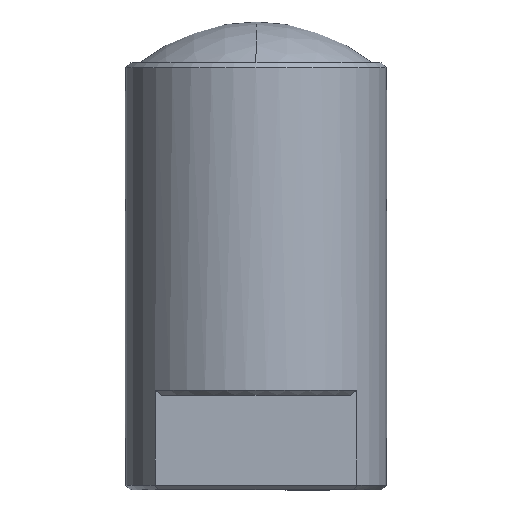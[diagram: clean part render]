
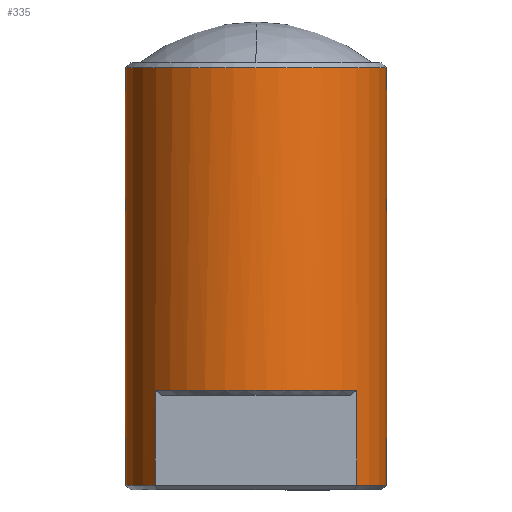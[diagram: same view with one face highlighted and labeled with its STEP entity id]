
A CAD part, front view. The second image highlights one B-rep face of the part: STEP entity #335.
In plain terms, the highlighted cylindrical face has radius 5.5 mm (diameter 11 mm), a partial arc.
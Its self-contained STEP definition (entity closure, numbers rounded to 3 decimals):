
#8 = CARTESIAN_POINT ( 'NONE',  ( 5.5, -0.069, 12.25 ) ) ;
#17 = ORIENTED_EDGE ( 'NONE', *, *, #1051, .T. ) ;
#34 = CARTESIAN_POINT ( 'NONE',  ( 5.5, 0., 11.75 ) ) ;
#38 = DIRECTION ( 'NONE',  ( 0., 0., 1. ) ) ;
#63 = VERTEX_POINT ( 'NONE', #1207 ) ;
#72 = ORIENTED_EDGE ( 'NONE', *, *, #1146, .T. ) ;
#102 = VERTEX_POINT ( 'NONE', #919 ) ;
#107 = CARTESIAN_POINT ( 'NONE',  ( -5.5, 0., 18. ) ) ;
#145 = CARTESIAN_POINT ( 'NONE',  ( 5.494, -0.25, 11.931 ) ) ;
#147 = AXIS2_PLACEMENT_3D ( 'NONE', #870, #38, #1298 ) ;
#178 = DIRECTION ( 'NONE',  ( 1., 0., 0. ) ) ;
#183 = LINE ( 'NONE', #812, #1670 ) ;
#185 = ORIENTED_EDGE ( 'NONE', *, *, #297, .T. ) ;
#202 = DIRECTION ( 'NONE',  ( 0., 0., 1. ) ) ;
#204 = CIRCLE ( 'NONE', #1262, 5.5 ) ;
#205 = CARTESIAN_POINT ( 'NONE',  ( 5.5, 0., 0.2 ) ) ;
#256 = LINE ( 'NONE', #973, #1276 ) ;
#267 = CARTESIAN_POINT ( 'NONE',  ( -5.5, 0., 12.25 ) ) ;
#270 = DIRECTION ( 'NONE',  ( 0., 0., -1. ) ) ;
#297 = EDGE_CURVE ( 'NONE', #782, #63, #1315, .T. ) ;
#298 = VECTOR ( 'NONE', #202, 1000. ) ;
#307 = EDGE_CURVE ( 'NONE', #773, #102, #183, .T. ) ;
#325 = CARTESIAN_POINT ( 'NONE',  ( 4.243, -3.5, 18. ) ) ;
#328 = EDGE_CURVE ( 'NONE', #500, #102, #952, .T. ) ;
#335 = ADVANCED_FACE ( 'NONE', ( #713 ), #1436, .T. ) ;
#338 = CARTESIAN_POINT ( 'NONE',  ( 4.243, -3.5, 4.2 ) ) ;
#341 = CARTESIAN_POINT ( 'NONE',  ( -5.496, -0.226, 12.128 ) ) ;
#366 = ORIENTED_EDGE ( 'NONE', *, *, #569, .F. ) ;
#398 = CARTESIAN_POINT ( 'NONE',  ( 0., 0., 0.2 ) ) ;
#405 = EDGE_CURVE ( 'NONE', #500, #1390, #256, .T. ) ;
#411 = CARTESIAN_POINT ( 'NONE',  ( 5.5, 0., 11.75 ) ) ;
#431 = LINE ( 'NONE', #325, #298 ) ;
#435 = ORIENTED_EDGE ( 'NONE', *, *, #307, .F. ) ;
#456 = CARTESIAN_POINT ( 'NONE',  ( 5.5, 0., 17.8 ) ) ;
#485 = CARTESIAN_POINT ( 'NONE',  ( -5.5, 0., 12.25 ) ) ;
#500 = VERTEX_POINT ( 'NONE', #34 ) ;
#509 = CARTESIAN_POINT ( 'NONE',  ( -5.5, 0., 17.8 ) ) ;
#528 = DIRECTION ( 'NONE',  ( 0., 0., 1. ) ) ;
#530 = EDGE_CURVE ( 'NONE', #773, #961, #822, .T. ) ;
#535 = VERTEX_POINT ( 'NONE', #338 ) ;
#545 = EDGE_CURVE ( 'NONE', #907, #1071, #1311, .T. ) ;
#561 = CARTESIAN_POINT ( 'NONE',  ( 5.496, -0.226, 12.128 ) ) ;
#569 = EDGE_CURVE ( 'NONE', #1650, #535, #431, .T. ) ;
#597 = CARTESIAN_POINT ( 'NONE',  ( -5.5, 0., 11.75 ) ) ;
#620 = CARTESIAN_POINT ( 'NONE',  ( -5.5, 0., 11.75 ) ) ;
#668 = B_SPLINE_CURVE_WITH_KNOTS ( 'NONE', 3,
 ( #485, #1027, #1329, #341, #1485, #1500, #763, #1786, #904, #620 ),
 .UNSPECIFIED., .F., .F.,
 ( 4, 2, 2, 2, 4 ),
 ( 0., 0.25, 0.5, 0.75, 1. ),
 .UNSPECIFIED. ) ;
#669 = CARTESIAN_POINT ( 'NONE',  ( -5.5, 0., 18. ) ) ;
#679 = ORIENTED_EDGE ( 'NONE', *, *, #405, .F. ) ;
#682 = CARTESIAN_POINT ( 'NONE',  ( 0., 0., 18. ) ) ;
#686 = DIRECTION ( 'NONE',  ( 0., 0., 1. ) ) ;
#687 = CARTESIAN_POINT ( 'NONE',  ( 4.243, -3.5, 0.2 ) ) ;
#713 = FACE_OUTER_BOUND ( 'NONE', #1805, .T. ) ;
#716 = DIRECTION ( 'NONE',  ( 0., 0., -1. ) ) ;
#721 = AXIS2_PLACEMENT_3D ( 'NONE', #1046, #1188, #178 ) ;
#755 = VECTOR ( 'NONE', #1172, 1000. ) ;
#763 = CARTESIAN_POINT ( 'NONE',  ( -5.496, -0.226, 11.872 ) ) ;
#773 = VERTEX_POINT ( 'NONE', #456 ) ;
#782 = VERTEX_POINT ( 'NONE', #597 ) ;
#812 = CARTESIAN_POINT ( 'NONE',  ( 5.5, 0., 18. ) ) ;
#821 = EDGE_CURVE ( 'NONE', #907, #535, #1557, .T. ) ;
#822 = CIRCLE ( 'NONE', #721, 5.5 ) ;
#841 = CARTESIAN_POINT ( 'NONE',  ( 5.496, -0.226, 11.872 ) ) ;
#870 = CARTESIAN_POINT ( 'NONE',  ( 0., 0., 4.2 ) ) ;
#904 = CARTESIAN_POINT ( 'NONE',  ( -5.5, -0.069, 11.75 ) ) ;
#907 = VERTEX_POINT ( 'NONE', #1798 ) ;
#919 = CARTESIAN_POINT ( 'NONE',  ( 5.5, 0., 12.25 ) ) ;
#952 = B_SPLINE_CURVE_WITH_KNOTS ( 'NONE', 3,
 ( #411, #1137, #965, #841, #145, #1412, #561, #1569, #8, #1145 ),
 .UNSPECIFIED., .F., .F.,
 ( 4, 2, 2, 2, 4 ),
 ( 0., 0.25, 0.5, 0.75, 1. ),
 .UNSPECIFIED. ) ;
#961 = VERTEX_POINT ( 'NONE', #509 ) ;
#965 = CARTESIAN_POINT ( 'NONE',  ( 5.499, -0.128, 11.774 ) ) ;
#968 = AXIS2_PLACEMENT_3D ( 'NONE', #682, #270, #1433 ) ;
#973 = CARTESIAN_POINT ( 'NONE',  ( 5.5, 0., 18. ) ) ;
#1003 = ORIENTED_EDGE ( 'NONE', *, *, #1725, .T. ) ;
#1027 = CARTESIAN_POINT ( 'NONE',  ( -5.5, -0.069, 12.25 ) ) ;
#1046 = CARTESIAN_POINT ( 'NONE',  ( 0., 0., 17.8 ) ) ;
#1051 = EDGE_CURVE ( 'NONE', #961, #1175, #1474, .T. ) ;
#1064 = CARTESIAN_POINT ( 'NONE',  ( -4.243, -3.5, 0.2 ) ) ;
#1071 = VERTEX_POINT ( 'NONE', #1064 ) ;
#1089 = VECTOR ( 'NONE', #1503, 1000. ) ;
#1103 = ORIENTED_EDGE ( 'NONE', *, *, #545, .F. ) ;
#1110 = DIRECTION ( 'NONE',  ( 0., 0., -1. ) ) ;
#1137 = CARTESIAN_POINT ( 'NONE',  ( 5.5, -0.069, 11.75 ) ) ;
#1145 = CARTESIAN_POINT ( 'NONE',  ( 5.5, 0., 12.25 ) ) ;
#1146 = EDGE_CURVE ( 'NONE', #63, #1071, #1502, .T. ) ;
#1172 = DIRECTION ( 'NONE',  ( 0., 0., -1. ) ) ;
#1175 = VERTEX_POINT ( 'NONE', #267 ) ;
#1188 = DIRECTION ( 'NONE',  ( 0., 0., -1. ) ) ;
#1207 = CARTESIAN_POINT ( 'NONE',  ( -5.5, 0., 0.2 ) ) ;
#1262 = AXIS2_PLACEMENT_3D ( 'NONE', #398, #528, #1562 ) ;
#1276 = VECTOR ( 'NONE', #716, 1000. ) ;
#1293 = VECTOR ( 'NONE', #1110, 1000. ) ;
#1298 = DIRECTION ( 'NONE',  ( -1., 0., 0. ) ) ;
#1311 = LINE ( 'NONE', #1322, #755 ) ;
#1315 = LINE ( 'NONE', #107, #1293 ) ;
#1322 = CARTESIAN_POINT ( 'NONE',  ( -4.243, -3.5, 18. ) ) ;
#1329 = CARTESIAN_POINT ( 'NONE',  ( -5.499, -0.128, 12.226 ) ) ;
#1390 = VERTEX_POINT ( 'NONE', #205 ) ;
#1412 = CARTESIAN_POINT ( 'NONE',  ( 5.494, -0.25, 12.069 ) ) ;
#1433 = DIRECTION ( 'NONE',  ( -1., 0., 0. ) ) ;
#1436 = CYLINDRICAL_SURFACE ( 'NONE', #968, 5.5 ) ;
#1474 = LINE ( 'NONE', #669, #1089 ) ;
#1485 = CARTESIAN_POINT ( 'NONE',  ( -5.494, -0.25, 12.069 ) ) ;
#1500 = CARTESIAN_POINT ( 'NONE',  ( -5.494, -0.25, 11.931 ) ) ;
#1502 = CIRCLE ( 'NONE', #1667, 5.5 ) ;
#1503 = DIRECTION ( 'NONE',  ( 0., 0., -1. ) ) ;
#1510 = ORIENTED_EDGE ( 'NONE', *, *, #821, .T. ) ;
#1557 = CIRCLE ( 'NONE', #147, 5.5 ) ;
#1562 = DIRECTION ( 'NONE',  ( 1., 0., 0. ) ) ;
#1569 = CARTESIAN_POINT ( 'NONE',  ( 5.499, -0.128, 12.226 ) ) ;
#1579 = ORIENTED_EDGE ( 'NONE', *, *, #328, .T. ) ;
#1625 = ORIENTED_EDGE ( 'NONE', *, *, #530, .T. ) ;
#1650 = VERTEX_POINT ( 'NONE', #687 ) ;
#1653 = EDGE_CURVE ( 'NONE', #1650, #1390, #204, .T. ) ;
#1667 = AXIS2_PLACEMENT_3D ( 'NONE', #1860, #686, #1865 ) ;
#1670 = VECTOR ( 'NONE', #1845, 1000. ) ;
#1725 = EDGE_CURVE ( 'NONE', #1175, #782, #668, .T. ) ;
#1786 = CARTESIAN_POINT ( 'NONE',  ( -5.499, -0.128, 11.774 ) ) ;
#1791 = ORIENTED_EDGE ( 'NONE', *, *, #1653, .T. ) ;
#1798 = CARTESIAN_POINT ( 'NONE',  ( -4.243, -3.5, 4.2 ) ) ;
#1805 = EDGE_LOOP ( 'NONE', ( #435, #1625, #17, #1003, #185, #72, #1103, #1510, #366, #1791, #679, #1579 ) ) ;
#1845 = DIRECTION ( 'NONE',  ( 0., 0., -1. ) ) ;
#1860 = CARTESIAN_POINT ( 'NONE',  ( 0., 0., 0.2 ) ) ;
#1865 = DIRECTION ( 'NONE',  ( 1., 0., 0. ) ) ;
